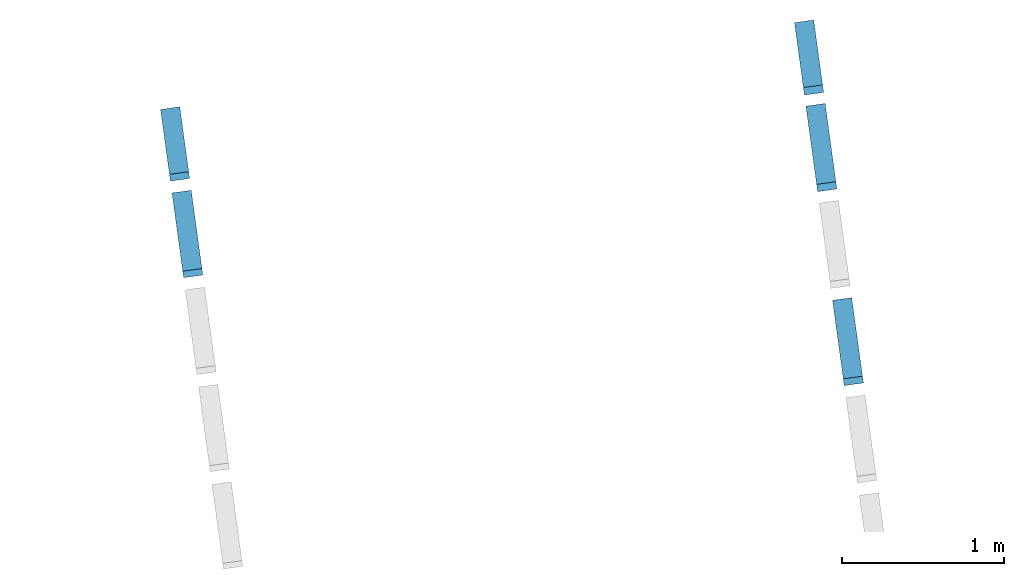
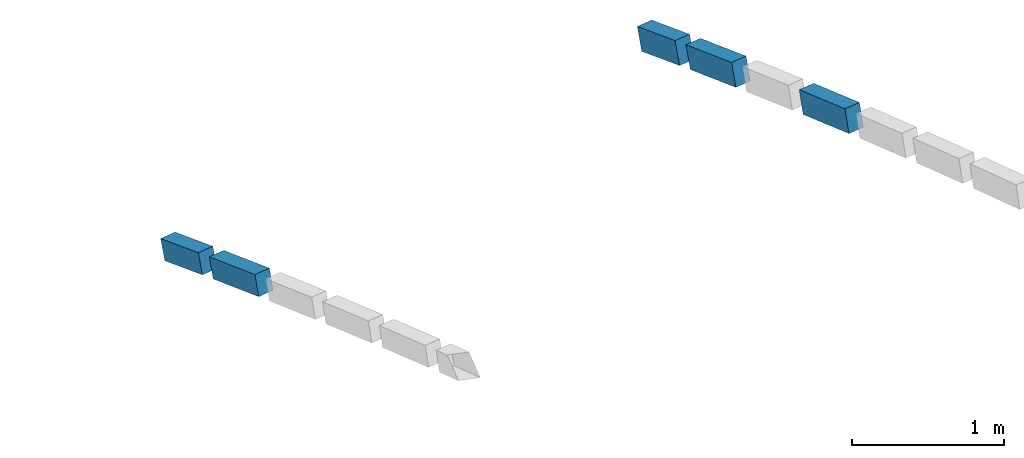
# One storey, part 6 of 6: 5 beams.
"""IFC2X3 building model written with IfcOpenShell, lengths in metres."""

import ifcopenshell
import ifcopenshell.guid

model = None  # the IFC model being written
_history = None  # IfcOwnerHistory: only IFC2X3 demands one
_inside = {}  # id of a spatial element -> (the spatial element, [elements in it])
_under = {}  # id of a project, library or spatial element -> (it, [spatial elements below it])
_declared = {}  # id of a project -> (the project, [libraries it declares])
_typed = {}  # id of a type object -> (the type object, [elements of that type])
_made_of = {}  # id of a material, layer set ... -> (it, [elements and type objects made of it])


def new_model(schema):
    """Start an empty IFC model of exactly this schema.

    Asked for "IFC4X3", IfcOpenShell would pick the latest addendum, in which some entities
    have other attributes; the version numbers below select the first issue.
    IFC2X3 requires an IfcOwnerHistory on every rooted entity: one is made here for all.
    """
    global model, _history
    if schema == "IFC4X3":
        model = ifcopenshell.file(schema_version=(4, 3, 0, 0))
    else:
        model = ifcopenshell.file(schema=schema)
    _inside.clear()
    _under.clear()
    _declared.clear()
    _typed.clear()
    _made_of.clear()
    _history = None
    if model.schema == "IFC2X3":
        org = make("IfcOrganization", Name="unknown")
        user = make(
            "IfcPersonAndOrganization",
            ThePerson=make("IfcPerson", FamilyName="unknown"),
            TheOrganization=org,
        )
        app = make(
            "IfcApplication",
            ApplicationDeveloper=org,
            Version="unknown",
            ApplicationFullName="unknown",
            ApplicationIdentifier="unknown",
        )
        _history = make(
            "IfcOwnerHistory",
            OwningUser=user,
            OwningApplication=app,
            ChangeAction="ADDED",
            CreationDate=0,
        )
    return model


def make(cls, **values):
    """One entity of the class cls with the attributes given. An attribute that is None is left unset."""
    return model.create_entity(
        cls, **{name: value for name, value in values.items() if value is not None}
    )


def entity(cls, *values):
    """Any entity or typed value of the class cls, its attributes in the order of the schema. None: left unset."""
    e = model.create_entity(cls)
    for i, value in enumerate(values):
        if value is not None:
            e[i] = value
    return e


def rooted(cls, **values):
    """An entity with a GlobalId (a new one), such as an element, a storey or a relation."""
    return make(cls, GlobalId=ifcopenshell.guid.new(), OwnerHistory=_history, **values)


def si_unit(unit_type, name, prefix=None):
    """IfcSIUnit, for example si_unit("LENGTHUNIT", "METRE", prefix="MILLI")."""
    return make("IfcSIUnit", UnitType=unit_type, Prefix=prefix, Name=name)


def converted_unit(unit_type, name, factor, base, dimensions=None, offset=None):
    """IfcConversionBasedUnit, such as the inch: factor (a typed value) times the base unit."""
    return make(
        "IfcConversionBasedUnit"
        if offset is None
        else "IfcConversionBasedUnitWithOffset",
        ConversionOffset=offset,
        Dimensions=None
        if dimensions is None
        else entity("IfcDimensionalExponents", *dimensions),
        UnitType=unit_type,
        Name=name,
        ConversionFactor=make(
            "IfcMeasureWithUnit", ValueComponent=factor, UnitComponent=base
        ),
    )


def derived_unit(unit_type, elements):
    """IfcDerivedUnit: a product of units, each with its exponent."""
    return make(
        "IfcDerivedUnit",
        Elements=[
            make("IfcDerivedUnitElement", Unit=unit, Exponent=power)
            for unit, power in elements
        ],
        UnitType=unit_type,
    )


def money_unit(currency):
    """IfcMonetaryUnit."""
    return make("IfcMonetaryUnit", Currency=currency)


def assignment(units):
    """IfcUnitAssignment: the units of a project."""
    return None if units is None else make("IfcUnitAssignment", Units=units)


def point(xyz):
    """IfcCartesianPoint."""
    return None if xyz is None else make("IfcCartesianPoint", Coordinates=xyz)


def direction(xyz):
    """IfcDirection."""
    return None if xyz is None else make("IfcDirection", DirectionRatios=xyz)


def frame(location, z_axis=None, x_axis=None):
    """IfcAxis2Placement3D, a coordinate frame: its origin and axes. An axis left out is left unset."""
    return make(
        "IfcAxis2Placement3D",
        Location=point(location),
        Axis=direction(z_axis),
        RefDirection=direction(x_axis),
    )


def frame_2d(location, x_axis=None):
    """IfcAxis2Placement2D, a coordinate frame in the plane: its origin and x axis."""
    return make(
        "IfcAxis2Placement2D", Location=point(location), RefDirection=direction(x_axis)
    )


def origin_with_axes():
    """The frame at (0, 0, 0) with the z axis (0, 0, 1) and the x axis (1, 0, 0) written out."""
    return frame((0.0, 0.0, 0.0), z_axis=(0.0, 0.0, 1.0), x_axis=(1.0, 0.0, 0.0))


def place(relative_to, where):
    """IfcLocalPlacement: puts the frame where relative to a parent placement (None: the world)."""
    return make(
        "IfcLocalPlacement", PlacementRelTo=relative_to, RelativePlacement=where
    )


def context(
    kind, dimensions, precision=None, world=None, true_north=None, identifier=None
):
    """IfcGeometricRepresentationContext, for example the 3D "Model" context."""
    return make(
        "IfcGeometricRepresentationContext",
        ContextIdentifier=identifier,
        ContextType=kind,
        CoordinateSpaceDimension=dimensions,
        Precision=precision,
        WorldCoordinateSystem=world,
        TrueNorth=true_north,
    )


def subcontext(parent, identifier, kind, view, scale=None):
    """IfcGeometricRepresentationSubContext, for example "Body" below "Model"."""
    return make(
        "IfcGeometricRepresentationSubContext",
        ContextIdentifier=identifier,
        ContextType=kind,
        ParentContext=parent,
        TargetScale=scale,
        TargetView=view,
    )


def project(units=None, contexts=None):
    """IfcProject with its units and contexts."""
    return rooted(
        "IfcProject",
        Name="project",
        RepresentationContexts=contexts,
        UnitsInContext=assignment(units),
    )


def spatial(cls, under=None, at=None, **own):
    """A site, building, storey or space (cls), placed at a placement, below another one or the project."""
    s = rooted(cls, ObjectPlacement=at, **own)
    if under is not None:
        _under.setdefault(under.id(), (under, []))[1].append(s)
    return s


def profile(cls, at=None, kind="AREA", **sizes):
    """A parametric profile (cls). Its sizes go by their IFC names, for example OverallWidth=200.0."""
    return make(cls, ProfileType=kind, Position=at, **sizes)


def rectangle(**sizes):
    """IfcRectangleProfileDef."""
    return profile("IfcRectangleProfileDef", **sizes)


def extrude(swept, where, along, depth):
    """IfcExtrudedAreaSolid: the profile swept, set in the frame where, extruded along a direction by depth."""
    return make(
        "IfcExtrudedAreaSolid",
        SweptArea=swept,
        Position=where,
        ExtrudedDirection=direction(along),
        Depth=depth,
    )


def boolean(op, a, b):
    """IfcBooleanResult of two solids."""
    return make("IfcBooleanResult", Operator=op, FirstOperand=a, SecondOperand=b)


def faces_of(points, faces, orient=None, outer=None):
    """IfcFace entities. A face is a list of loops; a loop is a list of indices into points, from 0.

    orient and outer hold one flag for each loop. By default every Orientation is true, the
    first loop of a face is its IfcFaceOuterBound and the others are IfcFaceBound.
    """
    made = []
    for i, loops in enumerate(faces):
        bounds = []
        for j, loop in enumerate(loops):
            is_outer = j == 0 if outer is None else outer[i][j]
            bounds.append(
                make(
                    "IfcFaceOuterBound" if is_outer else "IfcFaceBound",
                    Bound=make("IfcPolyLoop", Polygon=[points[k] for k in loop]),
                    Orientation=True if orient is None else orient[i][j],
                )
            )
        made.append(make("IfcFace", Bounds=bounds))
    return made


def faceted_brep(points, faces, orient=None, outer=None, voids=None):
    """IfcFacetedBrep: a solid bounded by flat faces; with voids (closed shells), ...WithVoids."""
    shared = [point(p) for p in points]
    hull = make("IfcClosedShell", CfsFaces=faces_of(shared, faces, orient, outer))
    if voids is None:
        return make("IfcFacetedBrep", Outer=hull)
    return make(
        "IfcFacetedBrepWithVoids",
        Outer=hull,
        Voids=[
            make(cls, CfsFaces=faces_of(shared, fs, o, b)) for cls, fs, o, b in voids
        ],
    )


def shape(context_of_items, identifier, shape_type, items):
    """IfcShapeRepresentation: the items that make up one representation, for example the "Body"."""
    return make(
        "IfcShapeRepresentation",
        ContextOfItems=context_of_items,
        RepresentationIdentifier=identifier,
        RepresentationType=shape_type,
        Items=items,
    )


def material(Name=None, Category=None):
    """IfcMaterial."""
    return make("IfcMaterial", Name=Name, Category=Category)


def made_of(thing, what):
    """Note that an element or type object is made of a material, layer set ...; save() writes the relation."""
    if what is not None:
        _made_of.setdefault(what.id(), (what, []))[1].append(thing)
    return thing


def type_object(cls, material=None, **own):
    """A type object (cls), such as IfcWallType, which elements share."""
    return made_of(rooted(cls, **own), material)


def element(
    cls,
    number,
    at=None,
    inside=None,
    cuts=None,
    type_object=None,
    material=None,
    context=None,
    identifier="Body",
    shape_type=None,
    held_by="IfcProductDefinitionShape",
    body=None,
    shapes=None,
    **own,
):
    """One element of the class cls, such as IfcWall. Its Tag is "e" and its number.

    at: its placement. inside: the storey or other place that contains it. cuts: it is an
    opening in that element (IfcRelVoidsElement). A single representation is given by context,
    identifier, shape_type and body (its items); several are given by shapes. held_by: the class
    of the entity that holds the representations. save() writes the other relations.
    """
    e = rooted(cls, Tag="e%d" % number, ObjectPlacement=at, **own)
    if body is not None:
        shapes = [shape(context, identifier, shape_type, body)]
    if shapes is not None:
        e.Representation = make(held_by, Representations=shapes)
    if inside is not None:
        _inside.setdefault(inside.id(), (inside, []))[1].append(e)
    if cuts is not None:
        rooted(
            "IfcRelVoidsElement", RelatingBuildingElement=cuts, RelatedOpeningElement=e
        )
    if type_object is not None:
        _typed.setdefault(type_object.id(), (type_object, []))[1].append(e)
    return made_of(e, material)


def aggregate(whole, parts):
    """IfcRelAggregates: a whole, such as a stair, and the parts it consists of."""
    return rooted("IfcRelAggregates", RelatingObject=whole, RelatedObjects=parts)


def save(model, path):
    """Write the relations noted so far, then the file.

    IfcRelAggregates (storeys below a building ...), IfcRelContainedInSpatialStructure (elements
    in a storey), IfcRelDefinesByType, IfcRelAssociatesMaterial and IfcRelDeclares: one each for
    every whole, place, type object, material and project.
    """
    for whole, parts in _under.values():
        aggregate(whole, parts)
    for where, things in _inside.values():
        rooted(
            "IfcRelContainedInSpatialStructure",
            RelatedElements=things,
            RelatingStructure=where,
        )
    for kind, things in _typed.values():
        rooted("IfcRelDefinesByType", RelatedObjects=things, RelatingType=kind)
    for what, things in _made_of.values():
        rooted("IfcRelAssociatesMaterial", RelatedObjects=things, RelatingMaterial=what)
    for by, libraries in _declared.values():
        rooted("IfcRelDeclares", RelatingContext=by, RelatedDefinitions=libraries)
    model.write(path)


model = new_model("IFC2X3")

# Units and contexts
model_context = context("Model", 3, precision=1e-05, world=origin_with_axes(), true_north=direction((0.0, 1.0)))
body_context = subcontext(model_context, "Body", "Model", "MODEL_VIEW")
ifc_project = project(units=[si_unit("LENGTHUNIT", "METRE"), si_unit("AREAUNIT", "SQUARE_METRE"), si_unit("VOLUMEUNIT", "CUBIC_METRE"), converted_unit("PLANEANGLEUNIT", "DEGREE", entity("IfcPlaneAngleMeasure", 0.0174532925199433), si_unit("PLANEANGLEUNIT", "RADIAN"), dimensions=[0, 0, 0, 0, 0, 0, 0]), money_unit("EUR"), converted_unit("TIMEUNIT", "Year", entity("IfcTimeMeasure", 31557600.0), si_unit("TIMEUNIT", "SECOND"), dimensions=[0, 0, 1, 0, 0, 0, 0]), si_unit("MASSUNIT", "GRAM", prefix="KILO"), si_unit("THERMODYNAMICTEMPERATUREUNIT", "DEGREE_CELSIUS"), si_unit("LUMINOUSINTENSITYUNIT", "LUMEN"), si_unit("ENERGYUNIT", "JOULE", prefix="MEGA"), derived_unit("THERMALCONDUCTANCEUNIT", [(si_unit("POWERUNIT", "WATT"), 1), (si_unit("LENGTHUNIT", "METRE"), -1), (si_unit("THERMODYNAMICTEMPERATUREUNIT", "KELVIN"), -1)]), derived_unit("SPECIFICHEATCAPACITYUNIT", [(si_unit("ENERGYUNIT", "JOULE"), 1), (si_unit("MASSUNIT", "GRAM", prefix="KILO"), -1), (si_unit("THERMODYNAMICTEMPERATUREUNIT", "KELVIN"), -1)]), derived_unit("MASSDENSITYUNIT", [(si_unit("MASSUNIT", "GRAM", prefix="KILO"), 1), (si_unit("VOLUMEUNIT", "CUBIC_METRE"), -1)])], contexts=[model_context])

# Site, building, storey
site_placement = place(None, origin_with_axes())
site = spatial("IfcSite", under=ifc_project, at=site_placement, Name="Gelände", CompositionType="ELEMENT")
building_placement = place(site_placement, origin_with_axes())
building = spatial("IfcBuilding", under=site, at=building_placement, Name="Gebäude", CompositionType="ELEMENT")
storey_placement = place(building_placement, frame((0.0, 0.0, 9.9), z_axis=(0.0, 0.0, 1.0), x_axis=(1.0, 0.0, 0.0)))
storey = spatial("IfcBuildingStorey", under=building, at=storey_placement, Name="Dach", CompositionType="ELEMENT", Elevation=9.9)

# Beams
ifc_material = material(Name="Bauholz")
beam_type_1 = type_object("IfcBeamType", Name="Bauholz 120 x 160", PredefinedType="NOTDEFINED")
beam_1_placement = place(storey_placement, frame((107.9730013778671, -134.1871974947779, -1.501747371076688), z_axis=(0.0, 0.0, 1.0), x_axis=(-0.9907490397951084, -0.1357068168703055, 0.0)))
element("IfcBeam", 1, at=beam_1_placement, inside=storey, type_object=beam_type_1, material=ifc_material, Name="Unterzug-031", context=body_context, shape_type="CSG", body=[
    boolean("DIFFERENCE", boolean("DIFFERENCE", extrude(rectangle(XDim=0.16, YDim=0.12, at=frame_2d((-0.08, 0.0), x_axis=(1.0, 0.0))), frame((0.0, 0.0, 0.0), z_axis=(0.0, 0.9674364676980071, 0.2531139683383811), x_axis=(0.0, -0.2531139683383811, 0.9674364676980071)), (0.0, 0.0, 1.0), 0.50534388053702), faceted_brep([(-0.05999999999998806, 0.0, 0.0), (-0.06000000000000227, 0.04184906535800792, -0.1544364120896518), (-0.06000000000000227, 0.04049823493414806, -0.1547898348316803), (0.06000000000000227, 0.04184906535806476, -0.1544364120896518), (0.05999999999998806, 0.0, 0.0), (0.06000000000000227, 0.04049823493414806, -0.1547898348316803)], [[[0, 1, 2]], [[3, 1, 0, 4]], [[1, 3, 5, 2]], [[4, 0, 2, 5]], [[3, 4, 5]]])), faceted_brep([(0.0600000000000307, 0.5293669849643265, -0.02688530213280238), (-0.05999999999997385, 0.5293669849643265, -0.02688530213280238), (-0.06000000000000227, 0.5293863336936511, -0.02688023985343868), (0.06000000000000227, 0.5293863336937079, -0.02688023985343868), (-0.05999999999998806, 0.4887869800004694, 0.1278831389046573), (0.06000000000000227, 0.4887869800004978, 0.1278831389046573), (-0.06000000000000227, 0.488888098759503, 0.1279095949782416), (0.06000000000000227, 0.4888880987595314, 0.1279095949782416)], [[[0, 1, 2, 3]], [[4, 1, 0, 5]], [[1, 4, 6, 2]], [[7, 3, 2, 6]], [[5, 0, 3, 7]], [[4, 5, 7, 6]]])),
])
beam_2_placement = place(storey_placement, frame((107.9023385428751, -133.6713319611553, -1.643677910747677), z_axis=(0.0, 0.0, 1.0), x_axis=(-0.9907490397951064, -0.1357068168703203, 0.0)))
element("IfcBeam", 2, at=beam_2_placement, inside=storey, type_object=beam_type_1, material=ifc_material, Name="Unterzug-031", context=body_context, shape_type="CSG", body=[
    boolean("DIFFERENCE", boolean("DIFFERENCE", extrude(rectangle(XDim=0.16, YDim=0.12, at=frame_2d((-0.08, 0.0), x_axis=(1.0, 0.0))), frame((0.0, 0.0, 0.0), z_axis=(0.0, 0.9647542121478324, 0.2631526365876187), x_axis=(0.0, -0.2631526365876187, 0.9647542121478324)), (0.0, 0.0, 1.0), 0.4197847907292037), faceted_brep([(-0.05999999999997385, 0.0, 0.0), (-0.06000000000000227, 0.0454919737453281, -0.153436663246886), (-0.06000000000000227, 0.04210442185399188, -0.1543606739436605), (0.0600000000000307, 0.0454919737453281, -0.153436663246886), (0.0600000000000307, 0.0, 0.0), (0.06000000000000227, 0.04210442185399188, -0.1543606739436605)], [[[0, 1, 2]], [[3, 1, 0, 4]], [[1, 3, 5, 2]], [[4, 0, 2, 5]], [[3, 4, 5]]])), faceted_brep([(0.06000000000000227, 0.4470742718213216, -0.04389846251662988), (-0.06000000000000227, 0.4470742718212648, -0.04389846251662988), (-0.05999999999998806, 0.4470935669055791, -0.04389319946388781), (0.06000000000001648, 0.4470935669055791, -0.04389319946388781), (-0.05999999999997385, 0.4048883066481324, 0.1104399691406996), (0.0600000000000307, 0.4048883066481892, 0.1104399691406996), (-0.06000000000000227, 0.4049891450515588, 0.1104674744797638), (0.06000000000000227, 0.4049891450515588, 0.1104674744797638)], [[[0, 1, 2, 3]], [[4, 1, 0, 5]], [[1, 4, 6, 2]], [[7, 3, 2, 6]], [[5, 0, 3, 7]], [[4, 5, 7, 6]]])),
])
beam_type_2 = type_object("IfcBeamType", Name="Bauholz 120 x 180", PredefinedType="NOTDEFINED")
beam_3_placement = place(storey_placement, frame((111.8882469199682, -133.1762670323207, -1.816460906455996), z_axis=(0.0, 0.0, 1.0), x_axis=(-0.9907490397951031, -0.1357068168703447, 0.0)))
element("IfcBeam", 3, at=beam_3_placement, inside=storey, type_object=beam_type_2, material=ifc_material, Name="Unterzug-031", context=body_context, shape_type="CSG", body=[
    boolean("DIFFERENCE", boolean("DIFFERENCE", extrude(rectangle(XDim=0.18, YDim=0.12, at=frame_2d((0.09, 0.06), x_axis=(1.0, 0.0))), frame((0.0, -0.003069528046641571, -0.0008370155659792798), z_axis=(0.0, 0.9647740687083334, 0.2630798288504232), x_axis=(0.0, -0.2630798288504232, 0.9647740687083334)), (0.0, 0.0, 1.0), 0.4196550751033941), faceted_brep([(0.0, -0.05040460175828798, 0.1728275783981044), (0.0, 0.0, 0.0), (0.0, -0.003069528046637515, -0.000837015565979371), (0.0, -0.05042389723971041, 0.1728223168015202), (0.1199999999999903, 0.0, 0.0), (0.1200000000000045, -0.0504046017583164, 0.1728275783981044), (0.1200000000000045, -0.003069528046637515, -0.000837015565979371), (0.1199999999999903, -0.05042389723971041, 0.1728223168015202)], [[[0, 1, 2, 3]], [[4, 1, 0, 5]], [[1, 4, 6, 2]], [[2, 6, 7, 3]], [[5, 0, 3, 7]], [[4, 5, 7, 6]]])), faceted_brep([(0.1199999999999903, 0.401676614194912, 0.1095313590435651), (0.0, 0.401676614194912, 0.1095313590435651), (0.0, 0.4018028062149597, 0.1095657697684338), (0.1200000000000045, 0.4018028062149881, 0.1095657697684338), (0.0, 0.3544291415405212, 0.2832198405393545), (0.1199999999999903, 0.3544291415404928, 0.2832198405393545), (0.0, 0.3544484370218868, 0.2832251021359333), (0.1199999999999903, 0.3544484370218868, 0.2832251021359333)], [[[0, 1, 2, 3]], [[4, 1, 0, 5]], [[1, 4, 6, 2]], [[7, 3, 2, 6]], [[5, 0, 3, 7]], [[4, 5, 7, 6]]])),
])
beam_4_placement = place(storey_placement, frame((111.9584735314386, -133.688950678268, -1.675438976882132), z_axis=(0.0, 0.0, 1.0), x_axis=(-0.9907490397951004, -0.1357068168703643, 0.0)))
element("IfcBeam", 4, at=beam_4_placement, inside=storey, type_object=beam_type_2, material=ifc_material, Name="Unterzug-031", context=body_context, shape_type="CSG", body=[
    boolean("DIFFERENCE", extrude(rectangle(XDim=0.18, YDim=0.12, at=frame_2d((0.09, 0.06), x_axis=(1.0, 0.0))), frame((0.0, -0.001314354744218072, -0.0003438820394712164), z_axis=(0.0, 0.9674360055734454, 0.2531157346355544), x_axis=(0.0, -0.2531157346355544, 0.9674360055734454)), (0.0, 0.0, 1.0), 0.5046934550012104), faceted_brep([(0.0, -0.04685583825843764, 0.1737996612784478), (0.0, 0.0, 0.0), (0.0, -0.001314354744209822, -0.0003438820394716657), (0.0, -0.04687518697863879, 0.1737945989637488), (0.1200000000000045, 0.0, 0.0), (0.1199999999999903, -0.04685583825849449, 0.1737996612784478), (0.1199999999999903, -0.001314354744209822, -0.0003438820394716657), (0.1199999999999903, -0.04687518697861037, 0.1737945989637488)], [[[0, 1, 2, 3]], [[4, 1, 0, 5]], [[1, 4, 6, 2]], [[2, 6, 7, 3]], [[5, 0, 3, 7]], [[4, 5, 7, 6]]])),
])
beam_5_placement = place(storey_placement, frame((112.1223606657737, -134.8854738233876, -1.366219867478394), z_axis=(0.0, 0.0, 1.0), x_axis=(-0.9907490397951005, -0.1357068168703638, 0.0)))
element("IfcBeam", 5, at=beam_5_placement, inside=storey, type_object=beam_type_2, material=ifc_material, Name="Unterzug-031", context=body_context, shape_type="CSG", body=[
    boolean("DIFFERENCE", boolean("DIFFERENCE", extrude(rectangle(XDim=0.18, YDim=0.12, at=frame_2d((0.09, 0.06), x_axis=(1.0, 0.0))), frame((0.0, -0.0006303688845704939, -0.000151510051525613), z_axis=(0.0, 0.9723097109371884, 0.2336960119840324), x_axis=(0.0, -0.2336960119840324, 0.9723097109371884)), (0.0, 0.0, 1.0), 0.5043170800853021), faceted_brep([(0.0, -0.04267620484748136, 0.1748689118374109), (0.0, 0.0, 0.0), (0.0, -0.0006303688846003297, -0.0001515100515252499), (0.0, -0.04269565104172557, 0.1748642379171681), (0.1199999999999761, 0.0, 0.0), (0.1199999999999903, -0.04267620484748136, 0.1748689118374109), (0.1200000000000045, -0.0006303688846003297, -0.0001515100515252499), (0.1199999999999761, -0.04269565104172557, 0.1748642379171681)], [[[0, 1, 2, 3]], [[4, 1, 0, 5]], [[1, 4, 6, 2]], [[2, 6, 7, 3]], [[5, 0, 3, 7]], [[4, 5, 7, 6]]])), faceted_brep([(0.1199999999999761, 0.4893971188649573, 0.1176272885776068), (0.0, 0.4893971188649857, 0.1176272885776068), (0.0, 0.4897220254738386, 0.1177053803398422), (0.1199999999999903, 0.4897220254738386, 0.1177053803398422), (0.0, 0.4476372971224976, 0.292716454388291), (0.1199999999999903, 0.4476372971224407, 0.292716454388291), (0.0, 0.4476567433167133, 0.2927211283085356), (0.1199999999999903, 0.4476567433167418, 0.2927211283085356)], [[[0, 1, 2, 3]], [[4, 1, 0, 5]], [[1, 4, 6, 2]], [[7, 3, 2, 6]], [[5, 0, 3, 7]], [[4, 5, 7, 6]]])),
])

save(model, "model.ifc")
